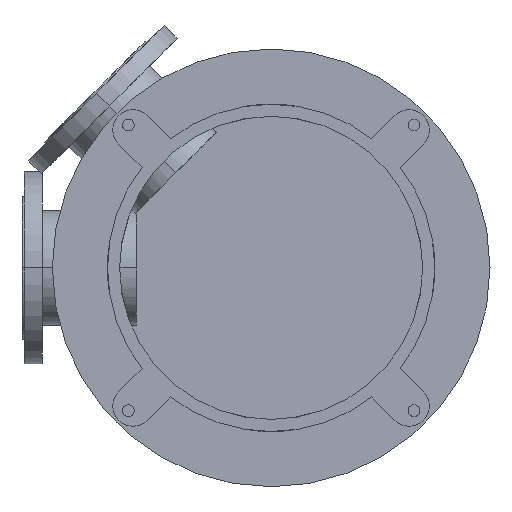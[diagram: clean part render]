
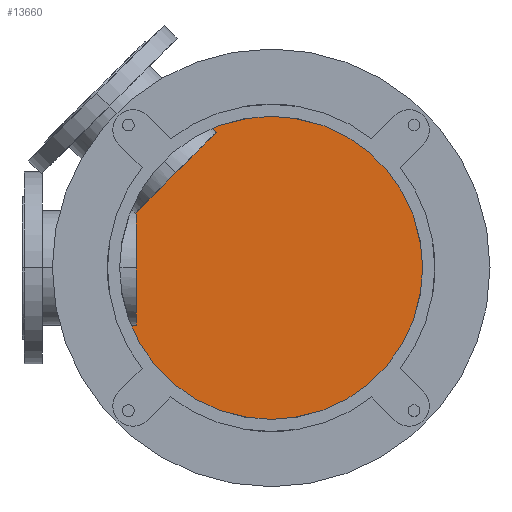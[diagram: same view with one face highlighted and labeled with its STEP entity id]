
A CAD part, front view. The second image highlights one B-rep face of the part: STEP entity #13660.
In plain terms, the highlighted planar face has unit normal (0, -1, 0).
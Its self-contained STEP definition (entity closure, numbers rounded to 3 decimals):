
#3270=CARTESIAN_POINT('',(0.,836.,0.));
#3271=DIRECTION('',(0.,-1.,0.));
#3272=DIRECTION('',(0.,0.,1.));
#3273=AXIS2_PLACEMENT_3D('',#3270,#3271,#3272);
#3444=CARTESIAN_POINT('',(0.,836.,0.));
#3445=DIRECTION('',(0.,-1.,0.));
#3446=DIRECTION('',(0.,0.,-1.));
#3447=AXIS2_PLACEMENT_3D('',#3444,#3445,#3446);
#8598=CARTESIAN_POINT('',(0.,836.,240.));
#8599=CARTESIAN_POINT('',(0.,836.,-240.));
#8600=VERTEX_POINT('',#8598);
#8601=VERTEX_POINT('',#8599);
#13650=CARTESIAN_POINT('',(0.,836.,0.));
#13651=DIRECTION('',(0.,1.,0.));
#13652=DIRECTION('',(0.,0.,-1.));
#13653=AXIS2_PLACEMENT_3D('',#13650,#13651,#13652);
#13654=PLANE('',#13653);
#13655=ORIENTED_EDGE('',*,*,#13628,.F.);
#13657=ORIENTED_EDGE('',*,*,#13656,.F.);
#13658=EDGE_LOOP('',(#13655,#13657));
#13659=FACE_OUTER_BOUND('',#13658,.F.);
#13660=ADVANCED_FACE('',(#13659),#13654,.F.);
#3274=CIRCLE('',#3273,240.);
#3448=CIRCLE('',#3447,240.);
#13628=EDGE_CURVE('',#8600,#8601,#3274,.T.);
#13656=EDGE_CURVE('',#8601,#8600,#3448,.T.);
